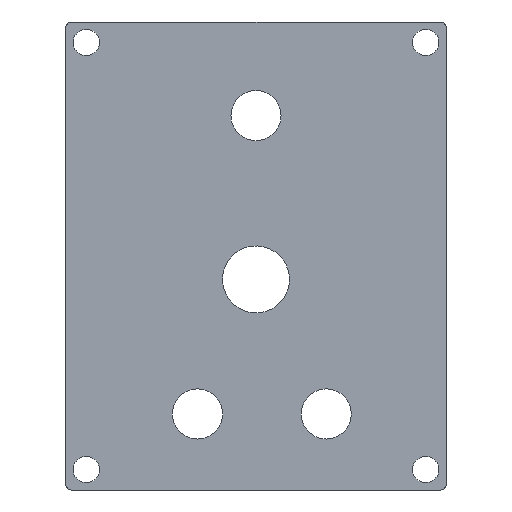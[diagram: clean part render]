
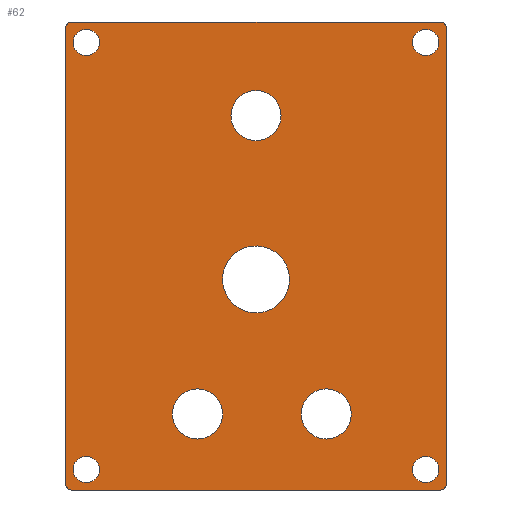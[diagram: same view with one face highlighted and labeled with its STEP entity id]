
A CAD part, front view. The second image highlights one B-rep face of the part: STEP entity #62.
In plain terms, the highlighted planar face has unit normal (0, -1, 0).
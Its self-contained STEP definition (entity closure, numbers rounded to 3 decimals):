
#62=ADVANCED_FACE('',(#274,#276,#278,#280,#282,#284,#286,#288,#290),#292,.F.);
#274=FACE_BOUND('',#275,.T.);
#275=EDGE_LOOP('',(#477,#478,#479,#480,#481,#482,#483,#484));
#276=FACE_BOUND('',#277,.T.);
#277=EDGE_LOOP('',(#485));
#278=FACE_BOUND('',#279,.T.);
#279=EDGE_LOOP('',(#486));
#280=FACE_BOUND('',#281,.T.);
#281=EDGE_LOOP('',(#487));
#282=FACE_BOUND('',#283,.T.);
#283=EDGE_LOOP('',(#488));
#284=FACE_BOUND('',#285,.T.);
#285=EDGE_LOOP('',(#489));
#286=FACE_BOUND('',#287,.T.);
#287=EDGE_LOOP('',(#490));
#288=FACE_BOUND('',#289,.T.);
#289=EDGE_LOOP('',(#491));
#290=FACE_BOUND('',#291,.T.);
#291=EDGE_LOOP('',(#492));
#292=PLANE('',#293);
#293=AXIS2_PLACEMENT_3D('',#294,#295,#296);
#294=CARTESIAN_POINT('',(0.,0.,0.));
#295=DIRECTION('',(0.,1.,0.));
#296=DIRECTION('',(1.,0.,0.));
#477=ORIENTED_EDGE('',*,*,#565,.F.);
#478=ORIENTED_EDGE('',*,*,#566,.F.);
#479=ORIENTED_EDGE('',*,*,#567,.F.);
#480=ORIENTED_EDGE('',*,*,#568,.F.);
#481=ORIENTED_EDGE('',*,*,#569,.F.);
#482=ORIENTED_EDGE('',*,*,#570,.F.);
#483=ORIENTED_EDGE('',*,*,#571,.F.);
#484=ORIENTED_EDGE('',*,*,#572,.F.);
#485=ORIENTED_EDGE('',*,*,#573,.T.);
#486=ORIENTED_EDGE('',*,*,#574,.T.);
#487=ORIENTED_EDGE('',*,*,#575,.T.);
#488=ORIENTED_EDGE('',*,*,#576,.T.);
#489=ORIENTED_EDGE('',*,*,#577,.T.);
#490=ORIENTED_EDGE('',*,*,#578,.T.);
#491=ORIENTED_EDGE('',*,*,#579,.T.);
#492=ORIENTED_EDGE('',*,*,#580,.T.);
#565=EDGE_CURVE('',#625,#626,#627,.F.);
#566=EDGE_CURVE('',#628,#625,#629,.T.);
#567=EDGE_CURVE('',#630,#628,#631,.F.);
#568=EDGE_CURVE('',#632,#630,#633,.T.);
#569=EDGE_CURVE('',#634,#632,#635,.F.);
#570=EDGE_CURVE('',#636,#634,#637,.T.);
#571=EDGE_CURVE('',#638,#636,#639,.F.);
#572=EDGE_CURVE('',#626,#638,#640,.T.);
#573=EDGE_CURVE('',#641,#641,#642,.T.);
#574=EDGE_CURVE('',#643,#643,#644,.F.);
#575=EDGE_CURVE('',#645,#645,#646,.T.);
#576=EDGE_CURVE('',#647,#647,#648,.T.);
#577=EDGE_CURVE('',#649,#649,#650,.T.);
#578=EDGE_CURVE('',#651,#651,#652,.T.);
#579=EDGE_CURVE('',#653,#653,#654,.F.);
#580=EDGE_CURVE('',#655,#655,#656,.T.);
#625=VERTEX_POINT('',#749);
#626=VERTEX_POINT('',#750);
#627=CIRCLE('',#751,1.);
#628=VERTEX_POINT('',#755);
#629=LINE('',#756,#757);
#630=VERTEX_POINT('',#759);
#631=CIRCLE('',#760,1.);
#632=VERTEX_POINT('',#764);
#633=LINE('',#765,#766);
#634=VERTEX_POINT('',#768);
#635=CIRCLE('',#769,1.);
#636=VERTEX_POINT('',#773);
#637=LINE('',#774,#775);
#638=VERTEX_POINT('',#777);
#639=CIRCLE('',#778,1.);
#640=LINE('',#782,#783);
#641=VERTEX_POINT('',#785);
#642=CIRCLE('',#786,4.283);
#643=VERTEX_POINT('',#790);
#644=CIRCLE('',#791,4.283);
#645=VERTEX_POINT('',#795);
#646=CIRCLE('',#796,2.25);
#647=VERTEX_POINT('',#800);
#648=CIRCLE('',#801,2.25);
#649=VERTEX_POINT('',#805);
#650=CIRCLE('',#806,2.25);
#651=VERTEX_POINT('',#810);
#652=CIRCLE('',#811,2.25);
#653=VERTEX_POINT('',#815);
#654=CIRCLE('',#816,4.283);
#655=VERTEX_POINT('',#820);
#656=CIRCLE('',#821,5.722);
#749=CARTESIAN_POINT('',(-31.5,0.,-40.));
#750=CARTESIAN_POINT('',(-32.5,0.,-39.));
#751=AXIS2_PLACEMENT_3D('',#752,#753,#754);
#752=CARTESIAN_POINT('',(-31.5,0.,-39.));
#753=DIRECTION('',(0.,-1.,0.));
#754=DIRECTION('',(-1.,0.,0.));
#755=CARTESIAN_POINT('',(31.5,0.,-40.));
#756=CARTESIAN_POINT('',(31.5,0.,-40.));
#757=VECTOR('',#758,1.);
#758=DIRECTION('',(-1.,0.,0.));
#759=CARTESIAN_POINT('',(32.5,0.,-39.));
#760=AXIS2_PLACEMENT_3D('',#761,#762,#763);
#761=CARTESIAN_POINT('',(31.5,0.,-39.));
#762=DIRECTION('',(0.,-1.,0.));
#763=DIRECTION('',(0.,0.,-1.));
#764=CARTESIAN_POINT('',(32.5,0.,39.));
#765=CARTESIAN_POINT('',(32.5,0.,39.));
#766=VECTOR('',#767,1.);
#767=DIRECTION('',(0.,0.,-1.));
#768=CARTESIAN_POINT('',(31.5,0.,40.));
#769=AXIS2_PLACEMENT_3D('',#770,#771,#772);
#770=CARTESIAN_POINT('',(31.5,0.,39.));
#771=DIRECTION('',(0.,-1.,0.));
#772=DIRECTION('',(1.,0.,0.));
#773=CARTESIAN_POINT('',(-31.5,0.,40.));
#774=CARTESIAN_POINT('',(-31.5,0.,40.));
#775=VECTOR('',#776,1.);
#776=DIRECTION('',(1.,0.,0.));
#777=CARTESIAN_POINT('',(-32.5,0.,39.));
#778=AXIS2_PLACEMENT_3D('',#779,#780,#781);
#779=CARTESIAN_POINT('',(-31.5,0.,39.));
#780=DIRECTION('',(0.,-1.,0.));
#781=DIRECTION('',(0.,0.,1.));
#782=CARTESIAN_POINT('',(-32.5,0.,-39.));
#783=VECTOR('',#784,1.);
#784=DIRECTION('',(0.,0.,1.));
#785=CARTESIAN_POINT('',(4.283,0.,24.));
#786=AXIS2_PLACEMENT_3D('',#787,#788,#789);
#787=CARTESIAN_POINT('',(0.,0.,24.));
#788=DIRECTION('',(0.,1.,0.));
#789=DIRECTION('',(1.,0.,0.));
#790=CARTESIAN_POINT('',(12.,0.,-31.283));
#791=AXIS2_PLACEMENT_3D('',#792,#793,#794);
#792=CARTESIAN_POINT('',(12.,0.,-27.));
#793=DIRECTION('',(0.,-1.,0.));
#794=DIRECTION('',(0.,0.,-1.));
#795=CARTESIAN_POINT('',(31.25,0.,36.5));
#796=AXIS2_PLACEMENT_3D('',#797,#798,#799);
#797=CARTESIAN_POINT('',(29.,0.,36.5));
#798=DIRECTION('',(0.,1.,0.));
#799=DIRECTION('',(1.,0.,0.));
#800=CARTESIAN_POINT('',(31.25,0.,-36.5));
#801=AXIS2_PLACEMENT_3D('',#802,#803,#804);
#802=CARTESIAN_POINT('',(29.,0.,-36.5));
#803=DIRECTION('',(0.,1.,0.));
#804=DIRECTION('',(1.,0.,0.));
#805=CARTESIAN_POINT('',(-26.75,0.,36.5));
#806=AXIS2_PLACEMENT_3D('',#807,#808,#809);
#807=CARTESIAN_POINT('',(-29.,0.,36.5));
#808=DIRECTION('',(0.,1.,0.));
#809=DIRECTION('',(1.,0.,0.));
#810=CARTESIAN_POINT('',(-26.75,0.,-36.5));
#811=AXIS2_PLACEMENT_3D('',#812,#813,#814);
#812=CARTESIAN_POINT('',(-29.,0.,-36.5));
#813=DIRECTION('',(0.,1.,0.));
#814=DIRECTION('',(1.,0.,0.));
#815=CARTESIAN_POINT('',(-10.,0.,-31.283));
#816=AXIS2_PLACEMENT_3D('',#817,#818,#819);
#817=CARTESIAN_POINT('',(-10.,0.,-27.));
#818=DIRECTION('',(0.,-1.,0.));
#819=DIRECTION('',(0.,0.,-1.));
#820=CARTESIAN_POINT('',(-4.836,0.,-0.941));
#821=AXIS2_PLACEMENT_3D('',#822,#823,#824);
#822=CARTESIAN_POINT('',(0.,0.,-4.));
#823=DIRECTION('',(0.,1.,0.));
#824=DIRECTION('',(-0.845,0.,0.534));
